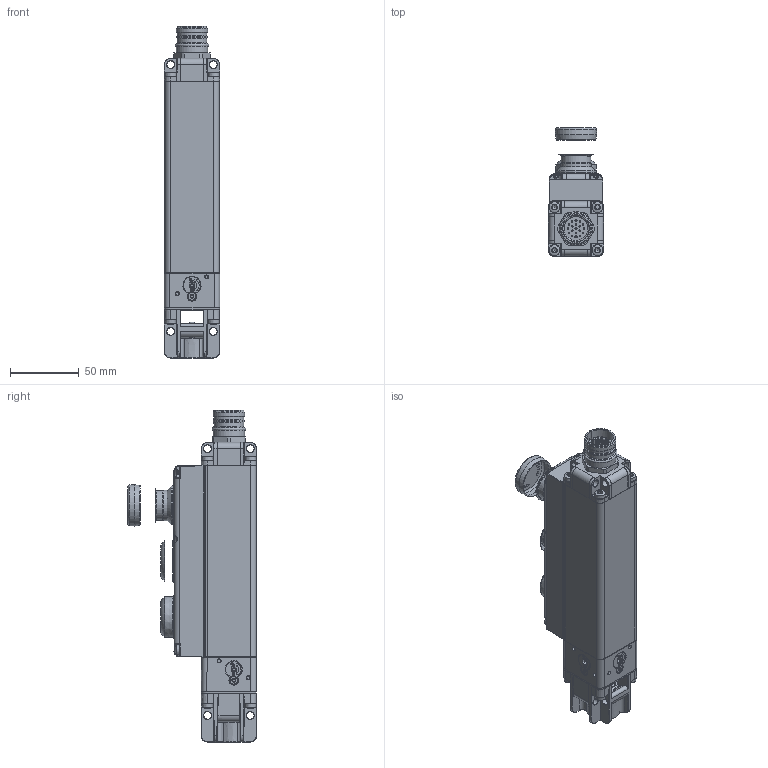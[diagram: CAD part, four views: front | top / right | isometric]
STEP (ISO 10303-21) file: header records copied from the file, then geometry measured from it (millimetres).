
FILE_DESCRIPTION(/* description */ (''),/* implementation_level */ '2;1');
FILE_NAME(/* name */ '2038009_A_PSENmg1-A-xxxxx-Fxxx-Ux-U.stp',/* time_stamp */ '2025-08-15T11:24:38+02:00',/* author */ ('prim'),/* organization */ (''),/* preprocessor_version */ 'ST-DEVELOPER v20',/* originating_system */ 'Autodesk Inventor 2024',/* authorisation */ '');
FILE_SCHEMA (('AUTOMOTIVE_DESIGN { 1 0 10303 214 3 1 1 }'));
Products named in the file (1): 2038009
Bounding box: 40 x 93.5 x 240.7 mm (x, y, z)
Volume: 446835.1 mm3; surface area: 65670.5 mm2
Topology: 1 solids, 1 shells, 1937 faces, 4892 edges, 2987 vertices
Faces by surface type: cylinder 654, plane 435, bspline 323, cone 256, torus 189, sphere 80
Full cylindrical faces by diameter (mm): 1 x16, 1.5 x3, 2.693 x3, 3.1 x3, 5.5 x11, 8.2 x2, 9 x1, 10 x1, 12 x1, 12.15 x1, 16.1 x1, 19.85 x2, 20 x1, 21.5 x1, 21.7 x3, 22.2 x1, 22.55 x1, 22.642 x2, 22.8 x4, 28 x1, 28.2 x1, 28.6 x2, 29.2 x2
Entity records: 73712 total; most frequent: CARTESIAN_POINT 29141, ORIENTED_EDGE 9678, DIRECTION 8845, EDGE_CURVE 4839, AXIS2_PLACEMENT_3D 3576, VERTEX_POINT 2987, EDGE_LOOP 2064, FACE_OUTER_BOUND 1937
